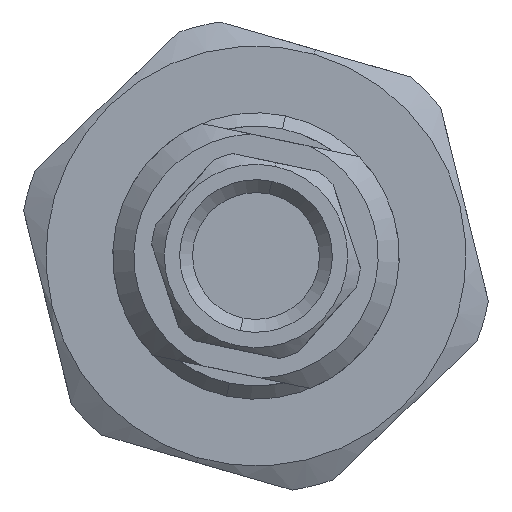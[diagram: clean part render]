
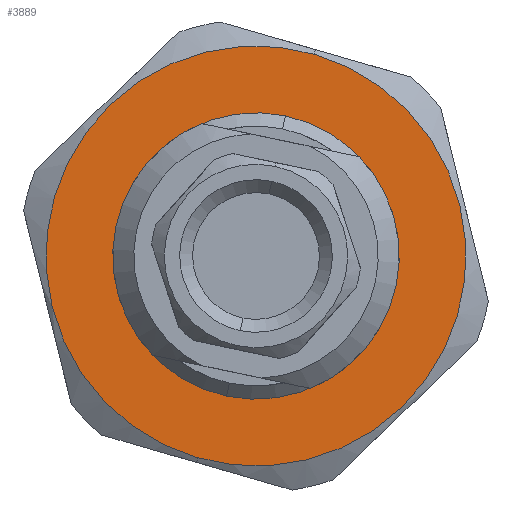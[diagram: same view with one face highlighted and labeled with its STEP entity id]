
A CAD part, left-side view. The second image highlights one B-rep face of the part: STEP entity #3889.
In plain terms, the highlighted planar face has unit normal (-1, 0, 0).
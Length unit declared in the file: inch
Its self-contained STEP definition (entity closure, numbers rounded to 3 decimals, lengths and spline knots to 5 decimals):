
#345 = CARTESIAN_POINT ( 'NONE',  ( -0.35017, 0.43527, 0.13017 ) ) ;
#346 = DIRECTION ( 'NONE',  ( -1., 0., 0. ) ) ;
#347 = DIRECTION ( 'NONE',  ( 0., 0.277, -0.961 ) ) ;
#516 = CARTESIAN_POINT ( 'NONE',  ( -0.35017, 0.43527, 0.13017 ) ) ;
#626 = CIRCLE ( 'NONE', #695, 0.275 ) ;
#649 = CIRCLE ( 'NONE', #669, 0.1875 ) ;
#669 = AXIS2_PLACEMENT_3D ( 'NONE', #6130, #6131, #6132 ) ;
#671 = AXIS2_PLACEMENT_3D ( 'NONE', #5249, #5257, #5258 ) ;
#695 = AXIS2_PLACEMENT_3D ( 'NONE', #6232, #6233, #6234 ) ;
#932 = ORIENTED_EDGE ( 'NONE', *, *, #6925, .T. ) ;
#954 = EDGE_LOOP ( 'NONE', ( #6631, #932 ) ) ;
#1008 = EDGE_LOOP ( 'NONE', ( #6629, #6727 ) ) ;
#2444 = CARTESIAN_POINT ( 'NONE',  ( -0.35017, 0.35896, 0.39437 ) ) ;
#2475 = CARTESIAN_POINT ( 'NONE',  ( -0.35017, 0.39667, 0.31366 ) ) ;
#2476 = CARTESIAN_POINT ( 'NONE',  ( -0.35017, 0.51158, -0.13403 ) ) ;
#2559 = AXIS2_PLACEMENT_3D ( 'NONE', #516, #5279, #4733 ) ;
#2643 = CIRCLE ( 'NONE', #2708, 0.275 ) ;
#2708 = AXIS2_PLACEMENT_3D ( 'NONE', #345, #346, #347 ) ;
#2737 = CIRCLE ( 'NONE', #2559, 0.1875 ) ;
#3048 = EDGE_CURVE ( 'NONE', #6492, #6401, #2643, .T. ) ;
#3086 = EDGE_CURVE ( 'NONE', #6490, #6675, #2737, .T. ) ;
#3889 = ADVANCED_FACE ( 'NONE', ( #5253, #5254 ), #5255, .F. ) ;
#4733 = DIRECTION ( 'NONE',  ( 0., 0., -1. ) ) ;
#5249 = CARTESIAN_POINT ( 'NONE',  ( -0.35017, 0.43527, 0.13017 ) ) ;
#5253 = FACE_OUTER_BOUND ( 'NONE', #1008, .T. ) ;
#5254 = FACE_BOUND ( 'NONE', #954, .T. ) ;
#5255 = PLANE ( 'NONE',  #671 ) ;
#5257 = DIRECTION ( 'NONE',  ( 1., 0., 0. ) ) ;
#5258 = DIRECTION ( 'NONE',  ( 0., -0.277, 0.961 ) ) ;
#5279 = DIRECTION ( 'NONE',  ( 1., 0., 0. ) ) ;
#6091 = CARTESIAN_POINT ( 'NONE',  ( -0.35017, 0.47387, -0.05331 ) ) ;
#6130 = CARTESIAN_POINT ( 'NONE',  ( -0.35017, 0.43527, 0.13017 ) ) ;
#6131 = DIRECTION ( 'NONE',  ( 1., 0., 0. ) ) ;
#6132 = DIRECTION ( 'NONE',  ( 0., 0., -1. ) ) ;
#6232 = CARTESIAN_POINT ( 'NONE',  ( -0.35017, 0.43527, 0.13017 ) ) ;
#6233 = DIRECTION ( 'NONE',  ( -1., 0., 0. ) ) ;
#6234 = DIRECTION ( 'NONE',  ( 0., 0.277, -0.961 ) ) ;
#6401 = VERTEX_POINT ( 'NONE', #2444 ) ;
#6490 = VERTEX_POINT ( 'NONE', #2475 ) ;
#6492 = VERTEX_POINT ( 'NONE', #2476 ) ;
#6629 = ORIENTED_EDGE ( 'NONE', *, *, #3048, .T. ) ;
#6631 = ORIENTED_EDGE ( 'NONE', *, *, #3086, .T. ) ;
#6675 = VERTEX_POINT ( 'NONE', #6091 ) ;
#6727 = ORIENTED_EDGE ( 'NONE', *, *, #6947, .T. ) ;
#6925 = EDGE_CURVE ( 'NONE', #6675, #6490, #649, .T. ) ;
#6947 = EDGE_CURVE ( 'NONE', #6401, #6492, #626, .T. ) ;
